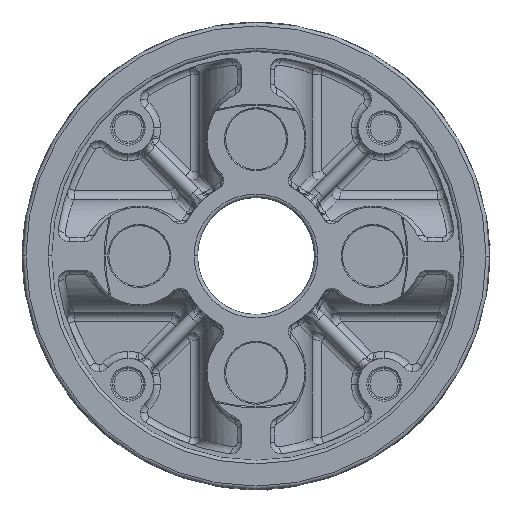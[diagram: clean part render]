
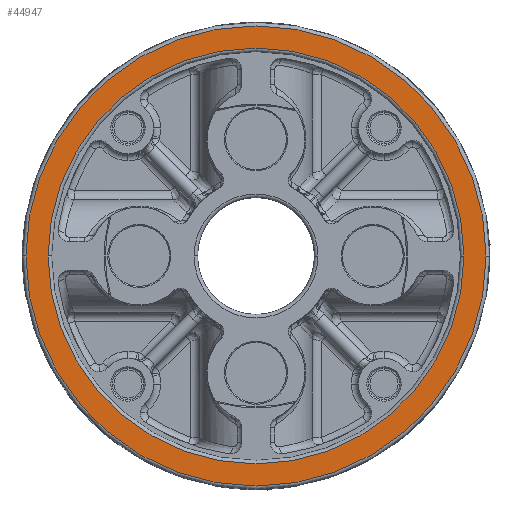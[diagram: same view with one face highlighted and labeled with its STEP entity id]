
A CAD part, left-side view. The second image highlights one B-rep face of the part: STEP entity #44947.
In plain terms, the highlighted planar face has unit normal (-1, 0, 0).
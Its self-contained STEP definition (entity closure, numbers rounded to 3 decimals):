
#292 = CIRCLE ( 'NONE', #26388, 89. ) ;
#1730 = AXIS2_PLACEMENT_3D ( 'NONE', #38009, #45615, #17057 ) ;
#4179 = CARTESIAN_POINT ( 'NONE',  ( -75., 0., 0. ) ) ;
#4306 = CIRCLE ( 'NONE', #1730, 98.5 ) ;
#5625 = CIRCLE ( 'NONE', #26545, 89. ) ;
#5956 = EDGE_CURVE ( 'NONE', #46019, #38243, #46597, .T. ) ;
#7337 = EDGE_LOOP ( 'NONE', ( #21485, #23212 ) ) ;
#10035 = CARTESIAN_POINT ( 'NONE',  ( -75., -98.5, 0. ) ) ;
#10382 = EDGE_CURVE ( 'NONE', #38243, #46019, #4306, .T. ) ;
#12295 = DIRECTION ( 'NONE',  ( 1., 0., 0. ) ) ;
#15630 = CARTESIAN_POINT ( 'NONE',  ( -75., 98.5, 0. ) ) ;
#16372 = DIRECTION ( 'NONE',  ( 0., 1., 0. ) ) ;
#16959 = CARTESIAN_POINT ( 'NONE',  ( -75., 62.933, 62.933 ) ) ;
#17057 = DIRECTION ( 'NONE',  ( 0., 1., 0. ) ) ;
#19923 = DIRECTION ( 'NONE',  ( 1., 0., 0. ) ) ;
#20186 = CARTESIAN_POINT ( 'NONE',  ( -75., 0., 0. ) ) ;
#21030 = FACE_OUTER_BOUND ( 'NONE', #53633, .T. ) ;
#21358 = DIRECTION ( 'NONE',  ( 1., 0., 0. ) ) ;
#21485 = ORIENTED_EDGE ( 'NONE', *, *, #39327, .T. ) ;
#23136 = AXIS2_PLACEMENT_3D ( 'NONE', #4179, #21358, #42024 ) ;
#23212 = ORIENTED_EDGE ( 'NONE', *, *, #35085, .T. ) ;
#24873 = DIRECTION ( 'NONE',  ( 0., 1., 0. ) ) ;
#25175 = VERTEX_POINT ( 'NONE', #45033 ) ;
#26388 = AXIS2_PLACEMENT_3D ( 'NONE', #50821, #51102, #47277 ) ;
#26545 = AXIS2_PLACEMENT_3D ( 'NONE', #20186, #19923, #16372 ) ;
#29743 = FACE_BOUND ( 'NONE', #7337, .T. ) ;
#31385 = AXIS2_PLACEMENT_3D ( 'NONE', #16959, #12295, #24873 ) ;
#33280 = PLANE ( 'NONE',  #31385 ) ;
#34940 = VERTEX_POINT ( 'NONE', #45394 ) ;
#35085 = EDGE_CURVE ( 'NONE', #25175, #34940, #292, .T. ) ;
#38009 = CARTESIAN_POINT ( 'NONE',  ( -75., 0., 0. ) ) ;
#38243 = VERTEX_POINT ( 'NONE', #10035 ) ;
#39327 = EDGE_CURVE ( 'NONE', #34940, #25175, #5625, .T. ) ;
#42024 = DIRECTION ( 'NONE',  ( 0., 1., 0. ) ) ;
#44947 = ADVANCED_FACE ( 'NONE', ( #21030, #29743 ), #33280, .F. ) ;
#45033 = CARTESIAN_POINT ( 'NONE',  ( -75., -89., 0. ) ) ;
#45394 = CARTESIAN_POINT ( 'NONE',  ( -75., 89., 0. ) ) ;
#45439 = ORIENTED_EDGE ( 'NONE', *, *, #10382, .F. ) ;
#45615 = DIRECTION ( 'NONE',  ( 1., 0., 0. ) ) ;
#46019 = VERTEX_POINT ( 'NONE', #15630 ) ;
#46597 = CIRCLE ( 'NONE', #23136, 98.5 ) ;
#47277 = DIRECTION ( 'NONE',  ( 0., 1., 0. ) ) ;
#50821 = CARTESIAN_POINT ( 'NONE',  ( -75., 0., 0. ) ) ;
#51102 = DIRECTION ( 'NONE',  ( 1., 0., 0. ) ) ;
#52296 = ORIENTED_EDGE ( 'NONE', *, *, #5956, .F. ) ;
#53633 = EDGE_LOOP ( 'NONE', ( #52296, #45439 ) ) ;
